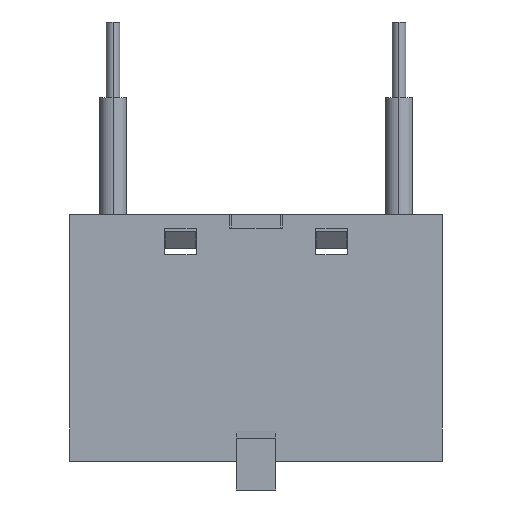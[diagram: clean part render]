
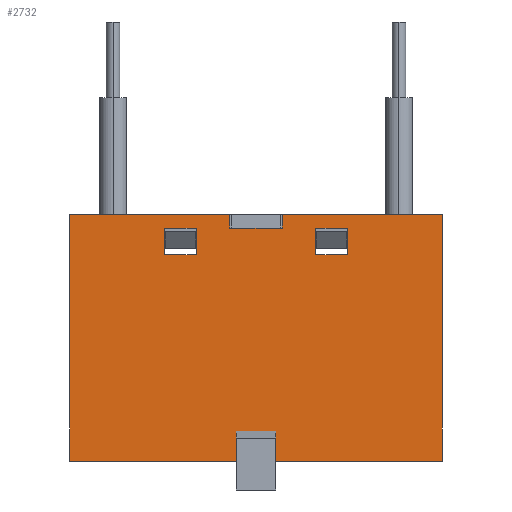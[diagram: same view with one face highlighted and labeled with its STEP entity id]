
A CAD part, front view. The second image highlights one B-rep face of the part: STEP entity #2732.
In plain terms, the highlighted planar face has unit normal (0, -1, 0).
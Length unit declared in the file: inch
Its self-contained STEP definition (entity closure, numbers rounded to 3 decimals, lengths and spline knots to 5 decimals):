
#138=DIRECTION('',(1.,0.,0.));
#139=VECTOR('',#138,0.20669);
#140=CARTESIAN_POINT('',(-0.10335,-0.24016,
0.43307));
#141=LINE('',#140,#139);
#554=DIRECTION('',(0.,0.,1.));
#555=VECTOR('',#554,0.97244);
#556=CARTESIAN_POINT('',(-0.73425,-0.24016,
-0.48622));
#557=LINE('',#556,#555);
#562=DIRECTION('',(1.,0.,0.));
#563=VECTOR('',#562,0.63091);
#564=CARTESIAN_POINT('',(-0.73425,-0.24016,
0.48622));
#565=LINE('',#564,#563);
#578=DIRECTION('',(0.,0.,-1.));
#579=VECTOR('',#578,0.05315);
#580=CARTESIAN_POINT('',(-0.10335,-0.24016,
0.48622));
#581=LINE('',#580,#579);
#586=DIRECTION('',(0.,0.,1.));
#587=VECTOR('',#586,0.97244);
#588=CARTESIAN_POINT('',(0.73425,-0.24016,
-0.48622));
#589=LINE('',#588,#587);
#598=DIRECTION('',(0.,0.,1.));
#599=VECTOR('',#598,0.05315);
#600=CARTESIAN_POINT('',(0.10335,-0.24016,
0.43307));
#601=LINE('',#600,#599);
#606=DIRECTION('',(1.,0.,0.));
#607=VECTOR('',#606,0.63091);
#608=CARTESIAN_POINT('',(0.10335,-0.24016,
0.48622));
#609=LINE('',#608,#607);
#638=DIRECTION('',(-1.,0.,0.));
#639=VECTOR('',#638,0.65551);
#640=CARTESIAN_POINT('',(-0.07874,-0.24016,
-0.48622));
#641=LINE('',#640,#639);
#646=DIRECTION('',(-1.,0.,0.));
#647=VECTOR('',#646,0.65551);
#648=CARTESIAN_POINT('',(0.73425,-0.24016,
-0.48622));
#649=LINE('',#648,#647);
#678=DIRECTION('',(0.,0.,-1.));
#679=VECTOR('',#678,0.11811);
#680=CARTESIAN_POINT('',(-0.07874,-0.24016,
-0.36811));
#681=LINE('',#680,#679);
#682=DIRECTION('',(-1.,0.,0.));
#683=VECTOR('',#682,0.15748);
#684=CARTESIAN_POINT('',(0.07874,-0.24016,
-0.36811));
#685=LINE('',#684,#683);
#706=DIRECTION('',(0.,0.,1.));
#707=VECTOR('',#706,0.11811);
#708=CARTESIAN_POINT('',(0.07874,-0.24016,
-0.48622));
#709=LINE('',#708,#707);
#826=DIRECTION('',(0.,0.,1.));
#827=VECTOR('',#826,0.10433);
#828=CARTESIAN_POINT('',(0.36024,-0.24016,
0.32874));
#829=LINE('',#828,#827);
#838=DIRECTION('',(-1.,0.,0.));
#839=VECTOR('',#838,0.12402);
#840=CARTESIAN_POINT('',(0.36024,-0.24016,
0.43307));
#841=LINE('',#840,#839);
#850=DIRECTION('',(0.,0.,-1.));
#851=VECTOR('',#850,0.10433);
#852=CARTESIAN_POINT('',(0.23622,-0.24016,
0.43307));
#853=LINE('',#852,#851);
#862=DIRECTION('',(1.,0.,0.));
#863=VECTOR('',#862,0.12402);
#864=CARTESIAN_POINT('',(0.23622,-0.24016,
0.32874));
#865=LINE('',#864,#863);
#874=DIRECTION('',(0.,0.,1.));
#875=VECTOR('',#874,0.10433);
#876=CARTESIAN_POINT('',(-0.23622,-0.24016,
0.32874));
#877=LINE('',#876,#875);
#886=DIRECTION('',(-1.,0.,0.));
#887=VECTOR('',#886,0.12402);
#888=CARTESIAN_POINT('',(-0.23622,-0.24016,
0.43307));
#889=LINE('',#888,#887);
#898=DIRECTION('',(0.,0.,-1.));
#899=VECTOR('',#898,0.10433);
#900=CARTESIAN_POINT('',(-0.36024,-0.24016,
0.43307));
#901=LINE('',#900,#899);
#910=DIRECTION('',(1.,0.,0.));
#911=VECTOR('',#910,0.12402);
#912=CARTESIAN_POINT('',(-0.36024,-0.24016,
0.32874));
#913=LINE('',#912,#911);
#1742=CARTESIAN_POINT('',(-0.36024,-0.24016,
0.43307));
#1743=VERTEX_POINT('',#1742);
#1744=CARTESIAN_POINT('',(-0.36024,-0.24016,
0.32874));
#1745=VERTEX_POINT('',#1744);
#1750=CARTESIAN_POINT('',(-0.23622,-0.24016,
0.32874));
#1751=VERTEX_POINT('',#1750);
#1752=CARTESIAN_POINT('',(-0.23622,-0.24016,
0.43307));
#1753=VERTEX_POINT('',#1752);
#1764=CARTESIAN_POINT('',(0.10335,-0.24016,
0.43307));
#1765=VERTEX_POINT('',#1764);
#1766=CARTESIAN_POINT('',(0.10335,-0.24016,
0.48622));
#1767=VERTEX_POINT('',#1766);
#1770=CARTESIAN_POINT('',(-0.10335,-0.24016,
0.48622));
#1771=VERTEX_POINT('',#1770);
#1772=CARTESIAN_POINT('',(-0.10335,-0.24016,
0.43307));
#1773=VERTEX_POINT('',#1772);
#1774=CARTESIAN_POINT('',(0.23622,-0.24016,
0.43307));
#1775=VERTEX_POINT('',#1774);
#1776=CARTESIAN_POINT('',(0.23622,-0.24016,
0.32874));
#1777=VERTEX_POINT('',#1776);
#1782=CARTESIAN_POINT('',(0.36024,-0.24016,
0.32874));
#1783=VERTEX_POINT('',#1782);
#1784=CARTESIAN_POINT('',(0.36024,-0.24016,
0.43307));
#1785=VERTEX_POINT('',#1784);
#1790=CARTESIAN_POINT('',(-0.73425,-0.24016,
0.48622));
#1791=VERTEX_POINT('',#1790);
#1794=CARTESIAN_POINT('',(-0.73425,-0.24016,
-0.48622));
#1795=VERTEX_POINT('',#1794);
#1796=CARTESIAN_POINT('',(-0.07874,-0.24016,
-0.48622));
#1797=VERTEX_POINT('',#1796);
#1798=CARTESIAN_POINT('',(-0.07874,-0.24016,
-0.36811));
#1799=VERTEX_POINT('',#1798);
#1800=CARTESIAN_POINT('',(0.07874,-0.24016,
-0.36811));
#1801=VERTEX_POINT('',#1800);
#1802=CARTESIAN_POINT('',(0.07874,-0.24016,
-0.48622));
#1803=VERTEX_POINT('',#1802);
#1804=CARTESIAN_POINT('',(0.73425,-0.24016,
-0.48622));
#1805=VERTEX_POINT('',#1804);
#1806=CARTESIAN_POINT('',(0.73425,-0.24016,
0.48622));
#1807=VERTEX_POINT('',#1806);
#2685=CARTESIAN_POINT('',(0.73425,-0.24016,0.));
#2686=DIRECTION('',(0.,-1.,0.));
#2687=DIRECTION('',(0.,0.,-1.));
#2688=AXIS2_PLACEMENT_3D('',#2685,#2686,#2687);
#2689=PLANE('',#2688);
#2691=ORIENTED_EDGE('',*,*,#2690,.T.);
#2693=ORIENTED_EDGE('',*,*,#2692,.T.);
#2695=ORIENTED_EDGE('',*,*,#2694,.F.);
#2697=ORIENTED_EDGE('',*,*,#2696,.T.);
#2699=ORIENTED_EDGE('',*,*,#2698,.T.);
#2701=ORIENTED_EDGE('',*,*,#2700,.T.);
#2703=ORIENTED_EDGE('',*,*,#2702,.T.);
#2705=ORIENTED_EDGE('',*,*,#2704,.T.);
#2706=ORIENTED_EDGE('',*,*,#2648,.T.);
#2707=ORIENTED_EDGE('',*,*,#2665,.T.);
#2708=ORIENTED_EDGE('',*,*,#2679,.T.);
#2709=ORIENTED_EDGE('',*,*,#2149,.T.);
#2710=EDGE_LOOP('',(#2691,#2693,#2695,#2697,#2699,#2701,#2703,#2705,#2706,#2707,
#2708,#2709));
#2711=FACE_OUTER_BOUND('',#2710,.F.);
#2713=ORIENTED_EDGE('',*,*,#2712,.T.);
#2715=ORIENTED_EDGE('',*,*,#2714,.T.);
#2717=ORIENTED_EDGE('',*,*,#2716,.T.);
#2719=ORIENTED_EDGE('',*,*,#2718,.T.);
#2720=EDGE_LOOP('',(#2713,#2715,#2717,#2719));
#2721=FACE_BOUND('',#2720,.F.);
#2723=ORIENTED_EDGE('',*,*,#2722,.T.);
#2725=ORIENTED_EDGE('',*,*,#2724,.T.);
#2727=ORIENTED_EDGE('',*,*,#2726,.T.);
#2729=ORIENTED_EDGE('',*,*,#2728,.T.);
#2730=EDGE_LOOP('',(#2723,#2725,#2727,#2729));
#2731=FACE_BOUND('',#2730,.F.);
#2732=ADVANCED_FACE('',(#2711,#2721,#2731),#2689,.T.);
#2149=EDGE_CURVE('',#1773,#1765,#141,.T.);
#2648=EDGE_CURVE('',#1795,#1791,#557,.T.);
#2665=EDGE_CURVE('',#1791,#1771,#565,.T.);
#2679=EDGE_CURVE('',#1771,#1773,#581,.T.);
#2690=EDGE_CURVE('',#1765,#1767,#601,.T.);
#2692=EDGE_CURVE('',#1767,#1807,#609,.T.);
#2694=EDGE_CURVE('',#1805,#1807,#589,.T.);
#2696=EDGE_CURVE('',#1805,#1803,#649,.T.);
#2698=EDGE_CURVE('',#1803,#1801,#709,.T.);
#2700=EDGE_CURVE('',#1801,#1799,#685,.T.);
#2702=EDGE_CURVE('',#1799,#1797,#681,.T.);
#2704=EDGE_CURVE('',#1797,#1795,#641,.T.);
#2712=EDGE_CURVE('',#1783,#1785,#829,.T.);
#2714=EDGE_CURVE('',#1785,#1775,#841,.T.);
#2716=EDGE_CURVE('',#1775,#1777,#853,.T.);
#2718=EDGE_CURVE('',#1777,#1783,#865,.T.);
#2722=EDGE_CURVE('',#1751,#1753,#877,.T.);
#2724=EDGE_CURVE('',#1753,#1743,#889,.T.);
#2726=EDGE_CURVE('',#1743,#1745,#901,.T.);
#2728=EDGE_CURVE('',#1745,#1751,#913,.T.);
